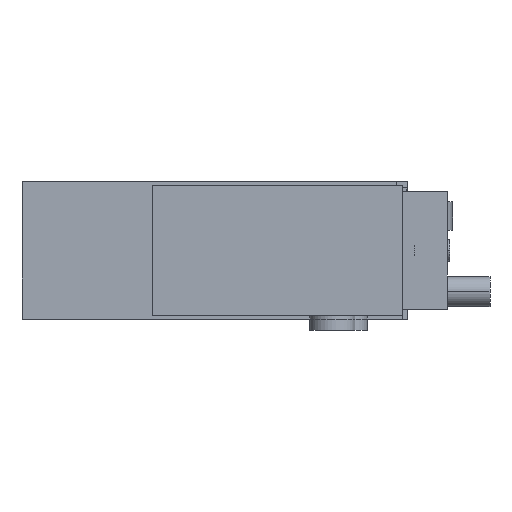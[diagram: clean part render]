
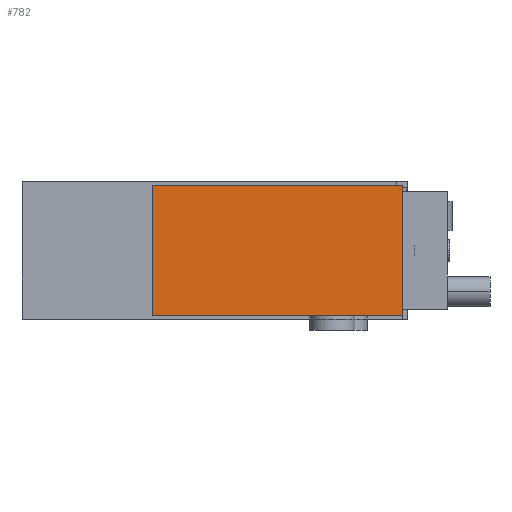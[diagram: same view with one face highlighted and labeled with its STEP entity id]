
A CAD part, front view. The second image highlights one B-rep face of the part: STEP entity #782.
In plain terms, the highlighted planar face has unit normal (0, -1, 0).
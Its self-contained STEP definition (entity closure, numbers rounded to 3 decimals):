
#243 = CARTESIAN_POINT ( 'NONE',  ( 50., -103., 26. ) ) ;
#251 = CARTESIAN_POINT ( 'NONE',  ( -50., -103., 26. ) ) ;
#584 = CARTESIAN_POINT ( 'NONE',  ( -50., -103., 26. ) ) ;
#782 = ADVANCED_FACE ( 'NONE', ( #9239 ), #3836, .T. ) ;
#1318 = EDGE_CURVE ( 'NONE', #10385, #8285, #6410, .T. ) ;
#1330 = ORIENTED_EDGE ( 'NONE', *, *, #1318, .T. ) ;
#1451 = CARTESIAN_POINT ( 'NONE',  ( -50., -103., 26. ) ) ;
#1775 = CARTESIAN_POINT ( 'NONE',  ( -50., -103., -26. ) ) ;
#2500 = CARTESIAN_POINT ( 'NONE',  ( -50., -103., -26. ) ) ;
#2558 = DIRECTION ( 'NONE',  ( 0., 0., -1. ) ) ;
#2816 = EDGE_CURVE ( 'NONE', #8285, #11377, #8523, .T. ) ;
#3572 = LINE ( 'NONE', #584, #9293 ) ;
#3769 = VECTOR ( 'NONE', #2558, 1000. ) ;
#3814 = VERTEX_POINT ( 'NONE', #251 ) ;
#3836 = PLANE ( 'NONE',  #4408 ) ;
#4408 = AXIS2_PLACEMENT_3D ( 'NONE', #9652, #12750, #9035 ) ;
#4537 = DIRECTION ( 'NONE',  ( 0., 0., 1. ) ) ;
#4893 = ORIENTED_EDGE ( 'NONE', *, *, #2816, .T. ) ;
#5504 = EDGE_CURVE ( 'NONE', #3814, #10385, #12392, .T. ) ;
#6410 = LINE ( 'NONE', #2500, #11811 ) ;
#6872 = ORIENTED_EDGE ( 'NONE', *, *, #5504, .T. ) ;
#7058 = DIRECTION ( 'NONE',  ( -1., 0., 0. ) ) ;
#8285 = VERTEX_POINT ( 'NONE', #12102 ) ;
#8385 = EDGE_LOOP ( 'NONE', ( #6872, #1330, #4893, #9347 ) ) ;
#8523 = LINE ( 'NONE', #243, #13987 ) ;
#9035 = DIRECTION ( 'NONE',  ( 0., 0., -1. ) ) ;
#9239 = FACE_OUTER_BOUND ( 'NONE', #8385, .T. ) ;
#9293 = VECTOR ( 'NONE', #7058, 1000. ) ;
#9347 = ORIENTED_EDGE ( 'NONE', *, *, #12405, .T. ) ;
#9652 = CARTESIAN_POINT ( 'NONE',  ( 0., -103., 0. ) ) ;
#10385 = VERTEX_POINT ( 'NONE', #1775 ) ;
#11377 = VERTEX_POINT ( 'NONE', #13107 ) ;
#11811 = VECTOR ( 'NONE', #11900, 1000. ) ;
#11900 = DIRECTION ( 'NONE',  ( 1., 0., 0. ) ) ;
#12102 = CARTESIAN_POINT ( 'NONE',  ( 50., -103., -26. ) ) ;
#12392 = LINE ( 'NONE', #1451, #3769 ) ;
#12405 = EDGE_CURVE ( 'NONE', #11377, #3814, #3572, .T. ) ;
#12750 = DIRECTION ( 'NONE',  ( 0., -1., 0. ) ) ;
#13107 = CARTESIAN_POINT ( 'NONE',  ( 50., -103., 26. ) ) ;
#13987 = VECTOR ( 'NONE', #4537, 1000. ) ;
